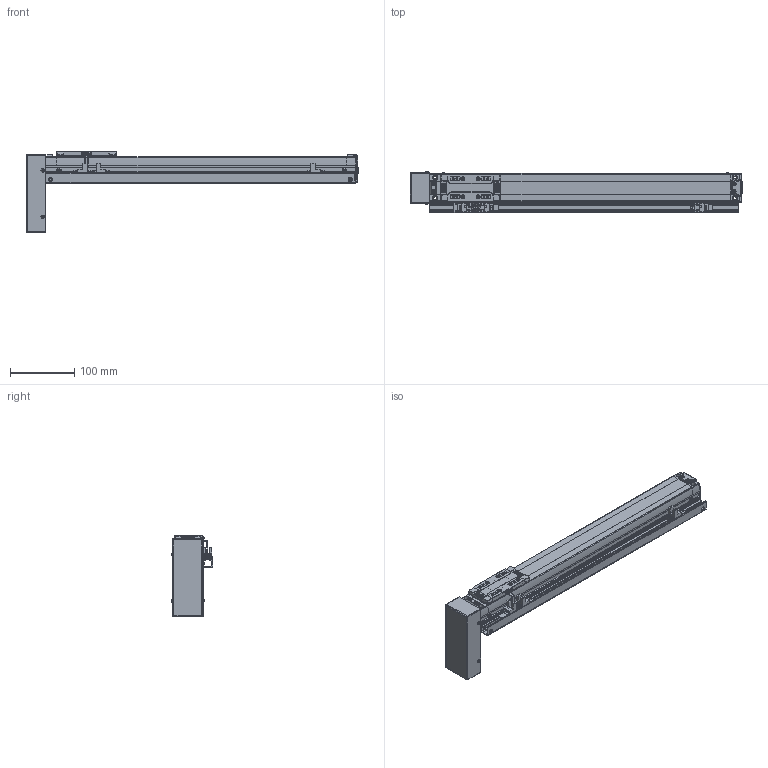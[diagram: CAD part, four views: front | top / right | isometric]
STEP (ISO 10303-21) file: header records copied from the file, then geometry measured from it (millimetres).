
FILE_DESCRIPTION(('STEP AP214'),'1');
FILE_NAME('Z:/Web/3D/SAN45/2013.ver/STP/SAN45ㅁㅁ-350PB+3SR.stp','2013-05-15T11:45:58',(' '),(' '),'Spatial InterOp 3D',' ',' ');
FILE_SCHEMA(('automotive_design'));
Length unit declared in the file: millimetre
Products named in the file (46): BODY-SAN45; REAR-SAN45; RRCV-SAN45; BHCS M3 x 6L; BHCS M3 X 6L; FRONT-SAN45; SHAFT; RN8 x 0.75; SSFX-SAN45; SLIDE-SAN45; SLCV-IM45; FHCS M3 x 6L; BTCV-SAN45; SRL-16x17-380L; EE-SX674; SBK-SX674-352; SDG-SA45; SCREW M3 x 5L
Bounding box: 516.15 x 64.06 x 126 mm (x, y, z)
Volume: 1102993.3 mm3; surface area: 225125.9 mm2
Topology: 46 solids, 46 shells, 2339 faces, 6039 edges, 3874 vertices
Faces by surface type: plane 1288, cylinder 733, cone 152, sphere 84, bspline 44, torus 32, extrusion 6
Entity records: 94659 total; most frequent: CARTESIAN_POINT 16864, DIRECTION 12568, ORIENTED_EDGE 11926, EDGE_CURVE 5963, AXIS2_PLACEMENT_3D 4391, VERTEX_POINT 3874, VECTOR 3786, LINE 3780
